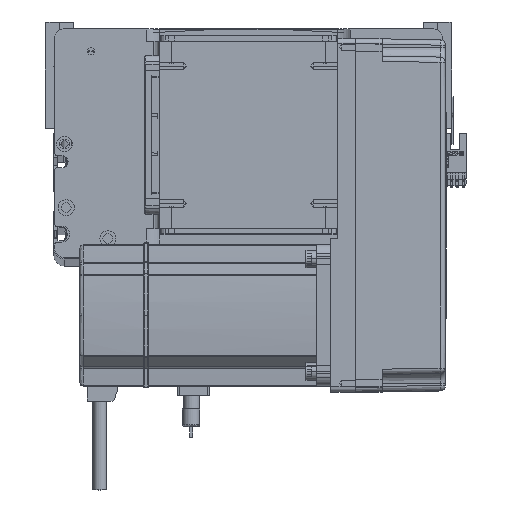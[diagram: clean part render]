
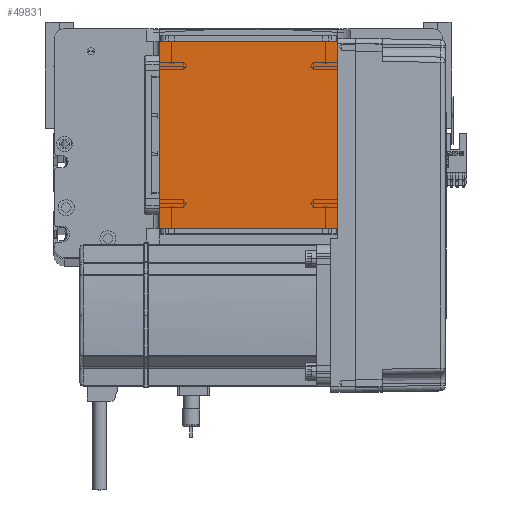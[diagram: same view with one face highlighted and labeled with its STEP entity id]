
A CAD part, top view. The second image highlights one B-rep face of the part: STEP entity #49831.
In plain terms, the highlighted planar face has unit normal (0, 0, 1).
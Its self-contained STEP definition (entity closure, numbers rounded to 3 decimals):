
#535 = DIRECTION ( 'NONE',  ( 0., 1., 0. ) ) ;
#683 = FACE_OUTER_BOUND ( 'NONE', #6912, .T. ) ;
#1744 = PLANE ( 'NONE',  #46739 ) ;
#2296 = ORIENTED_EDGE ( 'NONE', *, *, #37360, .T. ) ;
#2498 = CARTESIAN_POINT ( 'NONE',  ( -50.5, 122., 115. ) ) ;
#2876 = LINE ( 'NONE', #24226, #38794 ) ;
#3754 = CARTESIAN_POINT ( 'NONE',  ( -50.5, 122., 115. ) ) ;
#6912 = EDGE_LOOP ( 'NONE', ( #41228, #2296, #42018, #15346 ) ) ;
#7043 = VERTEX_POINT ( 'NONE', #35155 ) ;
#10981 = VECTOR ( 'NONE', #535, 1000. ) ;
#15164 = CARTESIAN_POINT ( 'NONE',  ( 0., 0., 115. ) ) ;
#15346 = ORIENTED_EDGE ( 'NONE', *, *, #31346, .T. ) ;
#15619 = VECTOR ( 'NONE', #50943, 1000. ) ;
#16169 = EDGE_CURVE ( 'NONE', #24938, #7043, #39461, .T. ) ;
#17400 = DIRECTION ( 'NONE',  ( 0., -1., 0. ) ) ;
#18734 = LINE ( 'NONE', #3754, #39037 ) ;
#22251 = CARTESIAN_POINT ( 'NONE',  ( -50.5, 16., 115. ) ) ;
#24226 = CARTESIAN_POINT ( 'NONE',  ( -50.5, 122., 115. ) ) ;
#24938 = VERTEX_POINT ( 'NONE', #49791 ) ;
#25365 = DIRECTION ( 'NONE',  ( -1., 0., 0. ) ) ;
#25839 = EDGE_CURVE ( 'NONE', #32792, #33936, #18734, .T. ) ;
#26480 = LINE ( 'NONE', #28161, #15619 ) ;
#28161 = CARTESIAN_POINT ( 'NONE',  ( -50.5, 16., 115. ) ) ;
#31346 = EDGE_CURVE ( 'NONE', #7043, #32792, #2876, .T. ) ;
#32792 = VERTEX_POINT ( 'NONE', #2498 ) ;
#33936 = VERTEX_POINT ( 'NONE', #22251 ) ;
#35155 = CARTESIAN_POINT ( 'NONE',  ( 50.5, 122., 115. ) ) ;
#37360 = EDGE_CURVE ( 'NONE', #33936, #24938, #26480, .T. ) ;
#38794 = VECTOR ( 'NONE', #25365, 1000. ) ;
#39037 = VECTOR ( 'NONE', #17400, 1000. ) ;
#39461 = LINE ( 'NONE', #44133, #10981 ) ;
#40580 = DIRECTION ( 'NONE',  ( 0., 0., 1. ) ) ;
#41228 = ORIENTED_EDGE ( 'NONE', *, *, #25839, .T. ) ;
#42018 = ORIENTED_EDGE ( 'NONE', *, *, #16169, .T. ) ;
#44133 = CARTESIAN_POINT ( 'NONE',  ( 50.5, 122., 115. ) ) ;
#45534 = DIRECTION ( 'NONE',  ( 1., 0., 0. ) ) ;
#46739 = AXIS2_PLACEMENT_3D ( 'NONE', #15164, #40580, #45534 ) ;
#49791 = CARTESIAN_POINT ( 'NONE',  ( 50.5, 16., 115. ) ) ;
#49831 = ADVANCED_FACE ( 'NONE', ( #683 ), #1744, .T. ) ;
#50943 = DIRECTION ( 'NONE',  ( 1., 0., 0. ) ) ;
